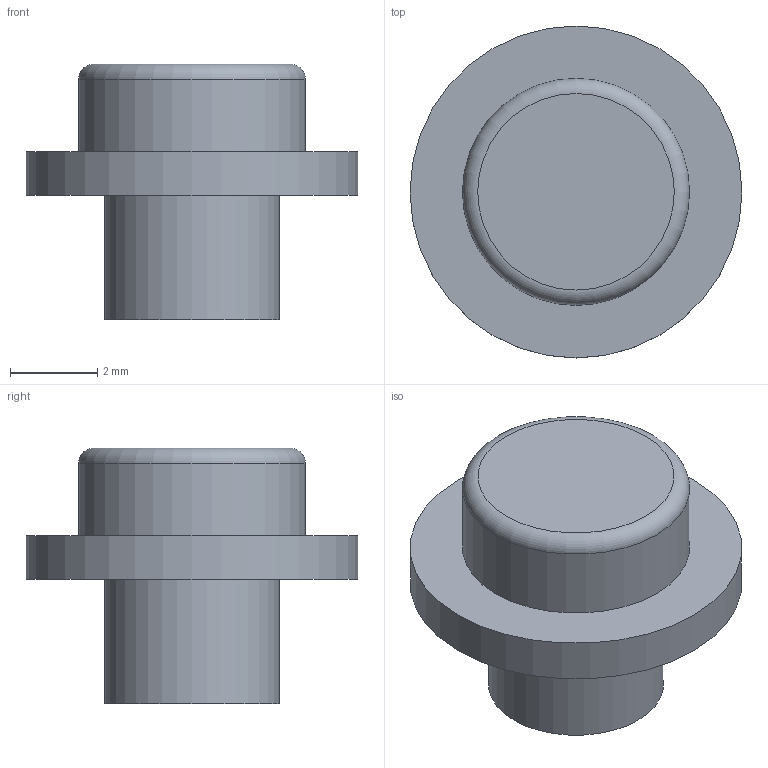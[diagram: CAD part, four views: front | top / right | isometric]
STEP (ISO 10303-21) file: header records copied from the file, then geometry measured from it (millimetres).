
FILE_DESCRIPTION(('Open CASCADE Model'),'2;1');
FILE_NAME('Open CASCADE Shape Model','2026-09-28T00:01:44',('Author'),( 'Open CASCADE'),'Open CASCADE STEP processor 7.8','Open CASCADE 7.8' ,'Unknown');
FILE_SCHEMA(('AUTOMOTIVE_DESIGN { 1 0 10303 214 1 1 1 1 }'));
Length unit declared in the file: millimetre
Products named in the file (1): Open CASCADE STEP translator 7.8 4
Bounding box: 7.6 x 7.6 x 5.85 mm (x, y, z)
Volume: 123.2 mm3; surface area: 180.6 mm2
Topology: 1 solids, 1 shells, 8 faces, 11 edges, 7 vertices
Faces by surface type: plane 4, cylinder 3, torus 1
Full cylindrical faces by diameter (mm): 4 x1, 5.2 x1, 7.6 x1
Entity records: 328 total; most frequent: DIRECTION 59, CARTESIAN_POINT 49, ORIENTED_EDGE 22, PCURVE 22, DEFINITIONAL_REPRESENTATION 22, LINE 19, VECTOR 19, AXIS2_PLACEMENT_3D 17
